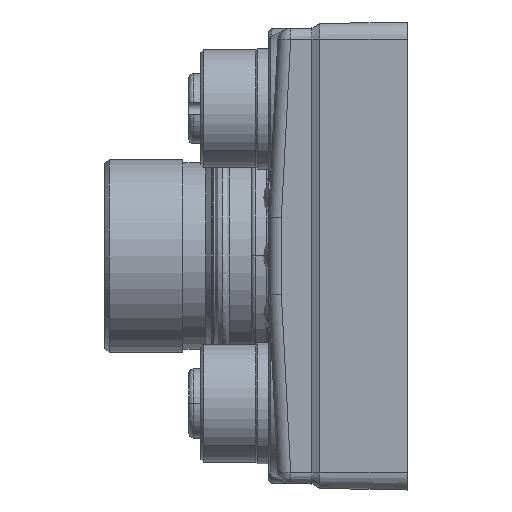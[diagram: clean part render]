
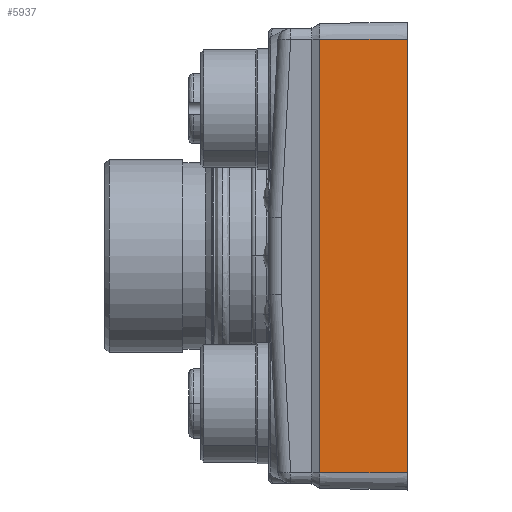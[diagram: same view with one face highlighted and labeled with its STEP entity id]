
A CAD part, left-side view. The second image highlights one B-rep face of the part: STEP entity #5937.
In plain terms, the highlighted planar face has unit normal (-1, 0.018, 0).
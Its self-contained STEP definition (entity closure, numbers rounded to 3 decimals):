
#345 = ORIENTED_EDGE ( 'NONE', *, *, #34887, .T. ) ;
#1259 = EDGE_LOOP ( 'NONE', ( #66315, #345, #49791, #22835 ) ) ;
#5285 = CARTESIAN_POINT ( 'NONE',  ( -90., 0., 25. ) ) ;
#5937 = ADVANCED_FACE ( 'NONE', ( #31740 ), #67377, .T. ) ;
#6520 = CARTESIAN_POINT ( 'NONE',  ( -89.824, 10.1, -25. ) ) ;
#9117 = EDGE_CURVE ( 'NONE', #39276, #76550, #35901, .T. ) ;
#13351 = VECTOR ( 'NONE', #65822, 1000. ) ;
#13471 = LINE ( 'NONE', #20039, #42104 ) ;
#20039 = CARTESIAN_POINT ( 'NONE',  ( -90., 0., -25. ) ) ;
#22835 = ORIENTED_EDGE ( 'NONE', *, *, #38202, .T. ) ;
#26101 = AXIS2_PLACEMENT_3D ( 'NONE', #49440, #31953, #55656 ) ;
#29467 = VERTEX_POINT ( 'NONE', #31984 ) ;
#31740 = FACE_OUTER_BOUND ( 'NONE', #1259, .T. ) ;
#31953 = DIRECTION ( 'NONE',  ( -1., 0.017, 0. ) ) ;
#31984 = CARTESIAN_POINT ( 'NONE',  ( -90., 0., -25. ) ) ;
#32260 = DIRECTION ( 'NONE',  ( -0.017, -1., 0. ) ) ;
#34887 = EDGE_CURVE ( 'NONE', #39276, #48246, #68005, .T. ) ;
#35423 = CARTESIAN_POINT ( 'NONE',  ( -90., 0., -25. ) ) ;
#35901 = LINE ( 'NONE', #70878, #38610 ) ;
#38202 = EDGE_CURVE ( 'NONE', #29467, #76550, #56450, .T. ) ;
#38610 = VECTOR ( 'NONE', #53215, 1000. ) ;
#39276 = VERTEX_POINT ( 'NONE', #74026 ) ;
#42104 = VECTOR ( 'NONE', #32260, 1000. ) ;
#48246 = VERTEX_POINT ( 'NONE', #70433 ) ;
#49440 = CARTESIAN_POINT ( 'NONE',  ( -90., 0., -25. ) ) ;
#49791 = ORIENTED_EDGE ( 'NONE', *, *, #67120, .T. ) ;
#53215 = DIRECTION ( 'NONE',  ( -0.017, -1., 0. ) ) ;
#55656 = DIRECTION ( 'NONE',  ( -0.017, -1., 0. ) ) ;
#56450 = LINE ( 'NONE', #35423, #67656 ) ;
#65353 = DIRECTION ( 'NONE',  ( 0., 0., 1. ) ) ;
#65822 = DIRECTION ( 'NONE',  ( 0., 0., -1. ) ) ;
#66315 = ORIENTED_EDGE ( 'NONE', *, *, #9117, .F. ) ;
#67120 = EDGE_CURVE ( 'NONE', #48246, #29467, #13471, .T. ) ;
#67377 = PLANE ( 'NONE',  #26101 ) ;
#67656 = VECTOR ( 'NONE', #65353, 1000. ) ;
#68005 = LINE ( 'NONE', #6520, #13351 ) ;
#70433 = CARTESIAN_POINT ( 'NONE',  ( -89.824, 10.1, -25. ) ) ;
#70878 = CARTESIAN_POINT ( 'NONE',  ( -90., 0., 25. ) ) ;
#74026 = CARTESIAN_POINT ( 'NONE',  ( -89.824, 10.1, 25. ) ) ;
#76550 = VERTEX_POINT ( 'NONE', #5285 ) ;
